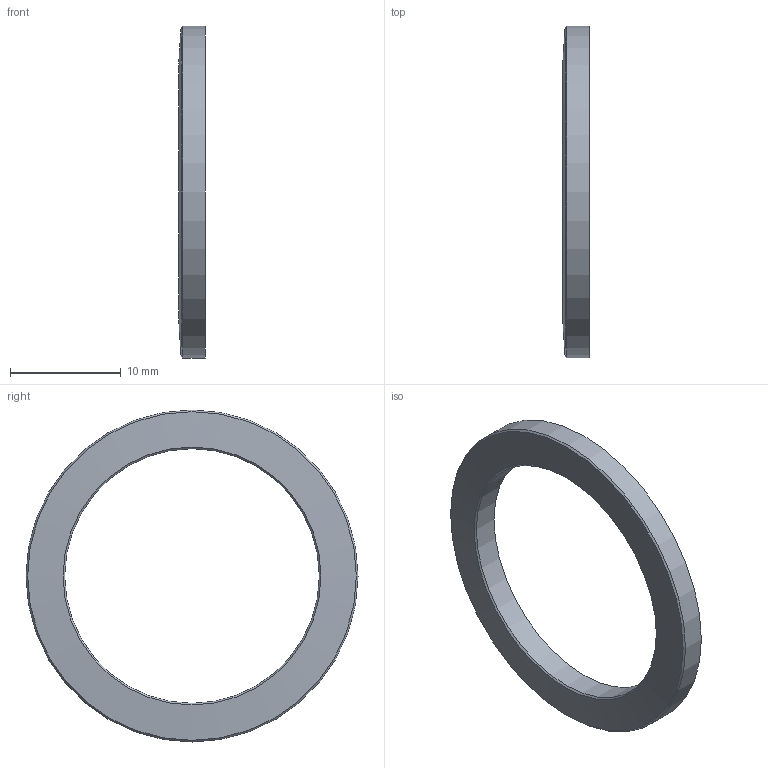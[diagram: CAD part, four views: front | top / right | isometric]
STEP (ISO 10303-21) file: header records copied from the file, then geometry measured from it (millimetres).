
FILE_DESCRIPTION(('Open CASCADE Model'),'2;1');
FILE_NAME('Open CASCADE Shape Model','2026-11-01T16:32:27',('Author'),( 'Open CASCADE'),'Open CASCADE STEP processor 8.0','build123d', 'Unknown');
FILE_SCHEMA(('AUTOMOTIVE_DESIGN { 1 0 10303 214 1 1 1 1 }'));
Length unit declared in the file: millimetre
Products named in the file (1): COMPOUND
Bounding box: 2.39 x 30 x 30 mm (x, y, z)
Volume: 664.2 mm3; surface area: 947.1 mm2
Topology: 1 solids, 1 shells, 6 faces, 11 edges, 6 vertices
Faces by surface type: cylinder 2, cone 2, plane 1, sphere 1
Full cylindrical faces by diameter (mm): 23 x1, 30 x1
Entity records: 313 total; most frequent: CARTESIAN_POINT 58, DIRECTION 52, LINE 24, VECTOR 24, ORIENTED_EDGE 22, PCURVE 22, DEFINITIONAL_REPRESENTATION 22, AXIS2_PLACEMENT_3D 14
